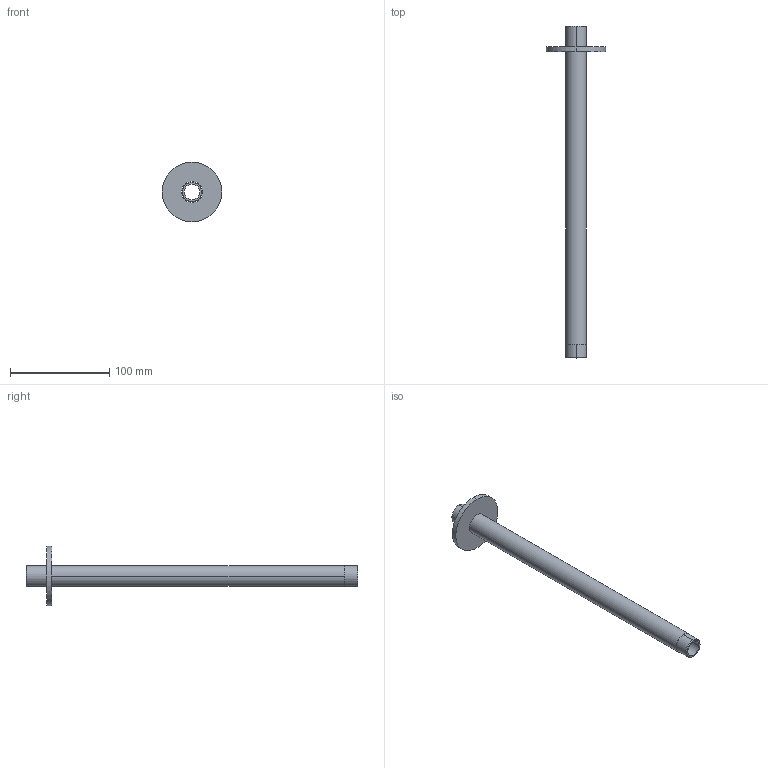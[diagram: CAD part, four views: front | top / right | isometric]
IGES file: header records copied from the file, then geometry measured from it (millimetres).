
Start section:  PTC IGES file: 89940.igs
Global section: file name: 89940.igs; native system: Creo Parametric by PTC Inc.; preprocessor: 2022014; author: carloff; organization: Unknown; date: 20230921.153439; units: millimetre
Bounding box: 60 x 335 x 60 mm (x, y, z)
Surface area: 45330.8 mm2 (no closed solid volume)
Topology: 0 solids, 0 shells, 22 faces, 96 edges, 96 vertices
Faces by surface type: revolution 16, bspline 6
